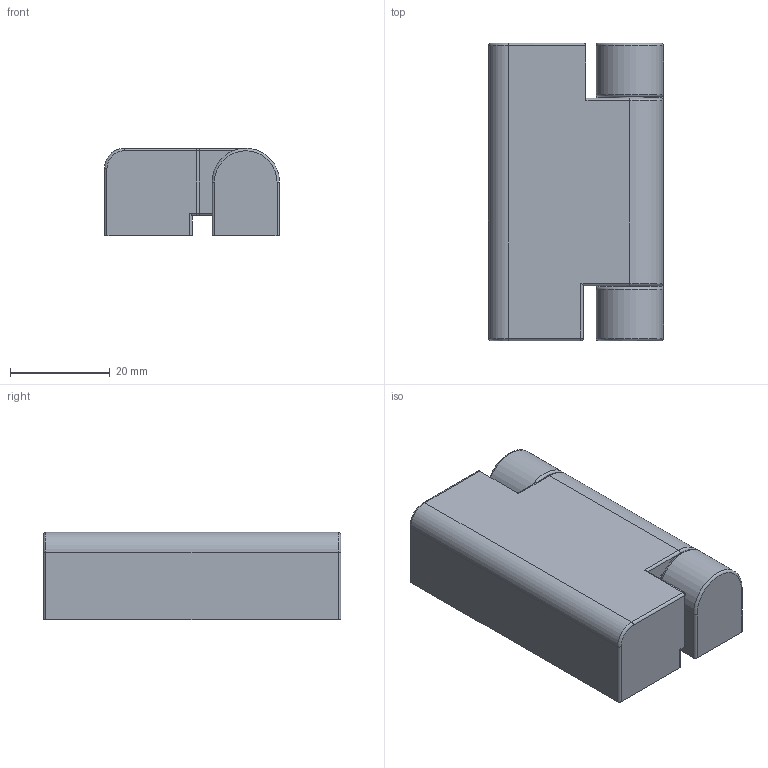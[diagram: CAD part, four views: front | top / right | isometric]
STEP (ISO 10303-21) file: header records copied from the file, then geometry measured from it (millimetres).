
FILE_DESCRIPTION (( 'STEP AP203' ), '1' );
FILE_NAME ('XG02-033-1.STEP', '2023-12-07T07:00:45', ( '' ), ( '' ), 'SwSTEP 2.0', 'SolidWorks 2020', '' );
FILE_SCHEMA (( 'CONFIG_CONTROL_DESIGN' ));
Length unit declared in the file: millimetre
Products named in the file (6): CL219-1-04; CL219-1-05; CL219-1-01; CL219-1-03; XG02-033-1; CL219-1-02-02
Assembly tree (5 placements, depth 2):
  XG02-033-1
    CL219-1-01
    CL219-1-04
    CL219-1-02-02
    CL219-1-05
    CL219-1-03
Bounding box: 35.01 x 59.5 x 17.5 mm (x, y, z)
Volume: 24949.7 mm3; surface area: 12287.6 mm2
Topology: 5 solids, 5 shells, 286 faces, 705 edges, 433 vertices
Faces by surface type: cylinder 118, plane 68, torus 35, bspline 32, cone 30, sphere 3
Entity records: 10484 total; most frequent: CARTESIAN_POINT 3190, DIRECTION 1455, ORIENTED_EDGE 1396, EDGE_CURVE 698, AXIS2_PLACEMENT_3D 599, VERTEX_POINT 433, CIRCLE 337, EDGE_LOOP 305
